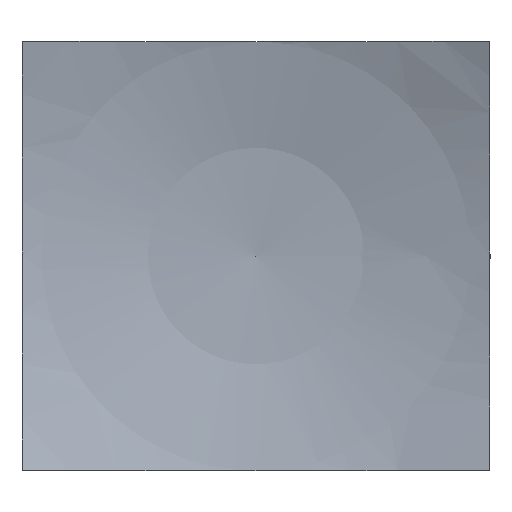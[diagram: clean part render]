
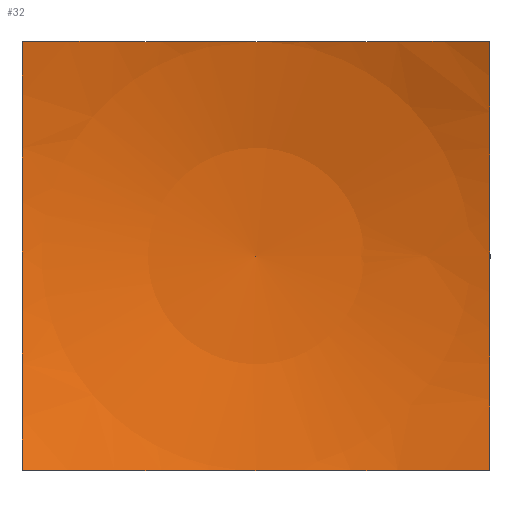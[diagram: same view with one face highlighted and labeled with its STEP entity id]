
A CAD part, top view. The second image highlights one B-rep face of the part: STEP entity #32.
In plain terms, the highlighted spherical face has radius 1100 mm.
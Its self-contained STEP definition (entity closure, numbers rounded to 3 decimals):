
#32 = ADVANCED_FACE( '', ( #62 ), #63, .F. );
#62 = FACE_OUTER_BOUND( '', #87, .T. );
#63 = SPHERICAL_SURFACE( '', #88, 1100. );
#87 = EDGE_LOOP( '', ( #111, #112, #113, #114 ) );
#88 = AXIS2_PLACEMENT_3D( '', #115, #116, #117 );
#111 = ORIENTED_EDGE( '', *, *, #156, .T. );
#112 = ORIENTED_EDGE( '', *, *, #154, .T. );
#113 = ORIENTED_EDGE( '', *, *, #157, .T. );
#114 = ORIENTED_EDGE( '', *, *, #158, .T. );
#115 = CARTESIAN_POINT( '', ( 0., 0., 1100. ) );
#116 = DIRECTION( '', ( 0., 0., 1. ) );
#117 = DIRECTION( '', ( 1., 0., 0. ) );
#154 = EDGE_CURVE( '', #169, #174, #176, .F. );
#156 = EDGE_CURVE( '', #178, #169, #179, .F. );
#157 = EDGE_CURVE( '', #174, #180, #181, .F. );
#158 = EDGE_CURVE( '', #180, #178, #182, .F. );
#169 = VERTEX_POINT( '', #195 );
#174 = VERTEX_POINT( '', #201 );
#176 = CIRCLE( '', #204, 1065.07 );
#178 = VERTEX_POINT( '', #206 );
#179 = CIRCLE( '', #207, 1058.301 );
#180 = VERTEX_POINT( '', #208 );
#181 = CIRCLE( '', #209, 1058.301 );
#182 = CIRCLE( '', #210, 1065.07 );
#195 = CARTESIAN_POINT( '', ( 300., 275., 78.053 ) );
#201 = CARTESIAN_POINT( '', ( -300., 275., 78.053 ) );
#204 = AXIS2_PLACEMENT_3D( '', #229, #230, #231 );
#206 = CARTESIAN_POINT( '', ( 300., -275., 78.053 ) );
#207 = AXIS2_PLACEMENT_3D( '', #232, #233, #234 );
#208 = CARTESIAN_POINT( '', ( -300., -275., 78.053 ) );
#209 = AXIS2_PLACEMENT_3D( '', #235, #236, #237 );
#210 = AXIS2_PLACEMENT_3D( '', #238, #239, #240 );
#229 = CARTESIAN_POINT( '', ( 0., 275., 1100. ) );
#230 = DIRECTION( '', ( 0., -1., 0. ) );
#231 = DIRECTION( '', ( 1., 0., 0. ) );
#232 = CARTESIAN_POINT( '', ( 300., 0., 1100. ) );
#233 = DIRECTION( '', ( -1., 0., 0. ) );
#234 = DIRECTION( '', ( 0., 0., 1. ) );
#235 = CARTESIAN_POINT( '', ( -300., 0., 1100. ) );
#236 = DIRECTION( '', ( 1., 0., 0. ) );
#237 = DIRECTION( '', ( 0., 1., 0. ) );
#238 = CARTESIAN_POINT( '', ( 0., -275., 1100. ) );
#239 = DIRECTION( '', ( 0., 1., 0. ) );
#240 = DIRECTION( '', ( -1., 0., 0. ) );
